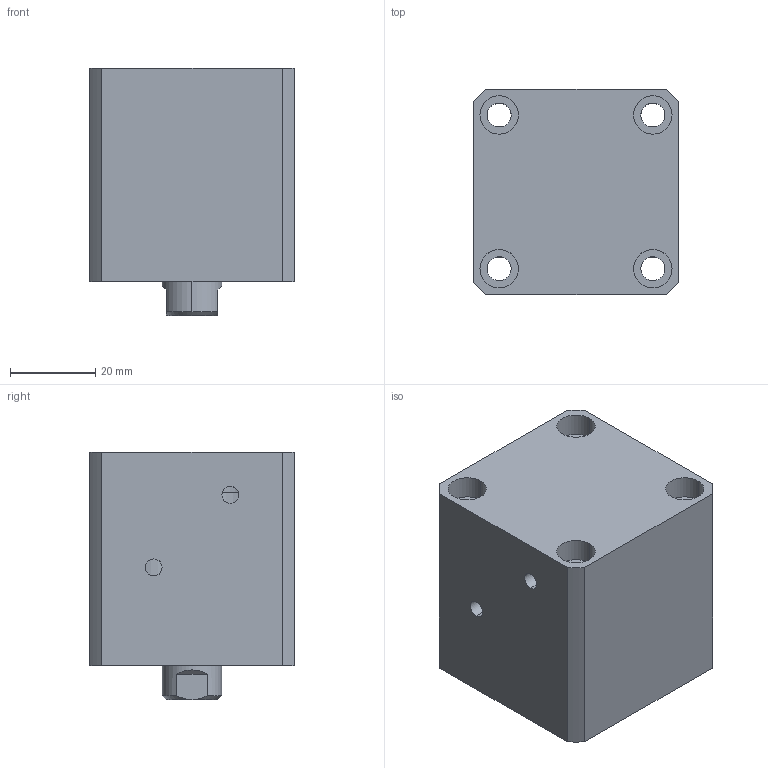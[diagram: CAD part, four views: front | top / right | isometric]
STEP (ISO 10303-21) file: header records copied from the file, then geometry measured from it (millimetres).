
FILE_DESCRIPTION (( 'STEP AP214' ), '1' );
FILE_NAME ('chtb-sdma25x5n_asm.STEP', '2018-05-22T04:29:13', ( 'Windows' ), ( 'Microsoft' ), 'SwSTEP 2.0', 'SolidWorks 2015', '' );
FILE_SCHEMA (( 'AUTOMOTIVE_DESIGN' ));
Length unit declared in the file: millimetre
Products named in the file (4): CHTB-SDMA25X5NHSG; CHTB-SDMA25X5NBT; CHTB-25QG; chtb-sdma25x5n_asm
Assembly tree (3 placements, depth 2):
  chtb-sdma25x5n_asm
    CHTB-25QG
    CHTB-SDMA25X5NBT
    CHTB-SDMA25X5NHSG
Bounding box: 48 x 48 x 58 mm (x, y, z)
Volume: 104034.7 mm3; surface area: 31928.2 mm2
Topology: 3 solids, 3 shells, 142 faces, 379 edges, 257 vertices
Faces by surface type: cylinder 89, plane 34, bspline 10, cone 9
Entity records: 8020 total; most frequent: CARTESIAN_POINT 4393, ORIENTED_EDGE 746, DIRECTION 661, EDGE_CURVE 373, AXIS2_PLACEMENT_3D 272, VERTEX_POINT 257, EDGE_LOOP 180, FACE_OUTER_BOUND 142
